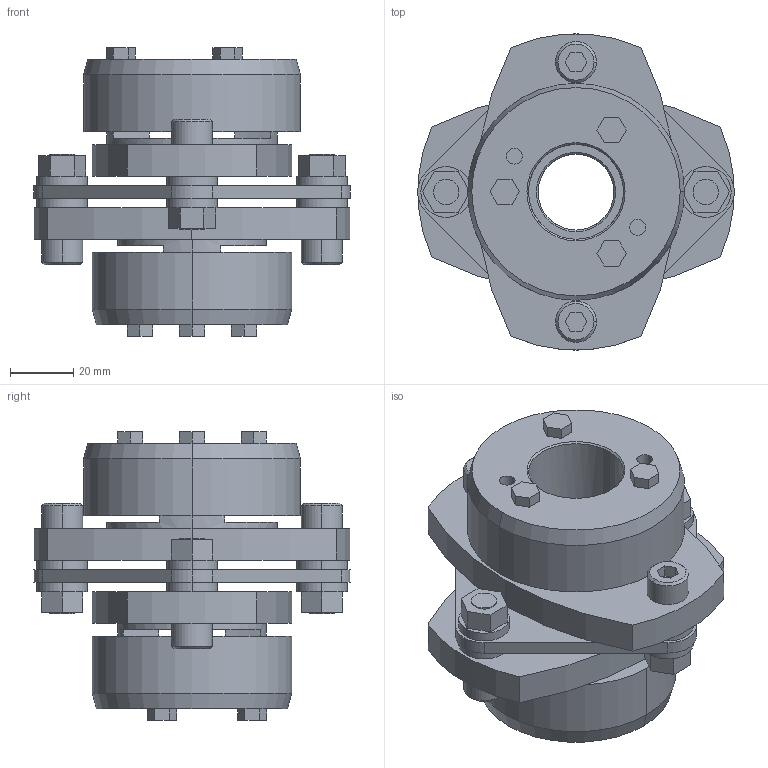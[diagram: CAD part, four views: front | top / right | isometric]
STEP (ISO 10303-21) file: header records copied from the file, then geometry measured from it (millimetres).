
FILE_DESCRIPTION((''),'2;1');
FILE_NAME('LCS-100T7-24×30.stp','2015-11-02T07:41:06',(''),(''),'AutoCAD STEP 2000i','AutoCAD 2000i',', , ');
FILE_SCHEMA(('CONFIG_CONTROL_DESIGN'));
Length unit declared in the file: millimetre
Products named in the file (8): LCS-100T7-25×30; 忣兜1; LC100T7-T030; LC100T7-T025-1; LC100T7-T025; LC100T7-T022-1; LC100T7-T022; LCS100-ITA
Assembly tree (7 placements, depth 2):
  LCS-100T7-25×30
    忣兜1
    LC100T7-T030
    LC100T7-T025-1
    LC100T7-T025
    LC100T7-T022-1
    LC100T7-T022
    LCS100-ITA
Bounding box: 100 x 99.93 x 91 mm (x, y, z)
Volume: 261474.4 mm3; surface area: 63900.9 mm2
Topology: 1 solids, 1 shells, 232 faces, 568 edges, 372 vertices
Faces by surface type: plane 132, cylinder 80, cone 20
Entity records: 7077 total; most frequent: DIRECTION 1244, CARTESIAN_POINT 1180, ORIENTED_EDGE 1136, EDGE_CURVE 568, AXIS2_PLACEMENT_3D 436, VERTEX_POINT 372, VECTOR 372, LINE 372
